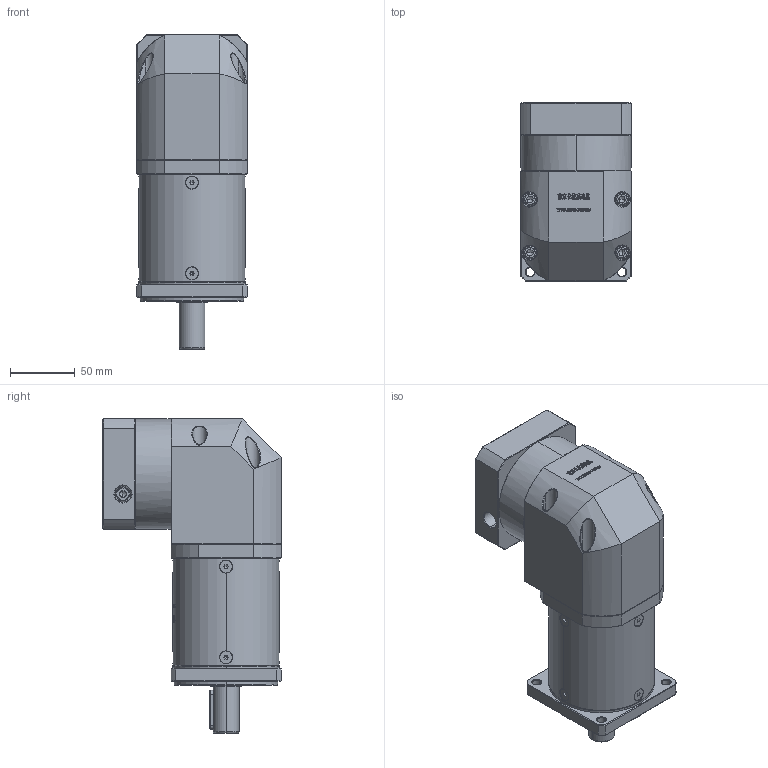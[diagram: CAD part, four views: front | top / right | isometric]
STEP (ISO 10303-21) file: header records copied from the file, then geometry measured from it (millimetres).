
FILE_DESCRIPTION (( 'STEP AP214' ), '1' );
FILE_NAME ('ZFR80-D20-L3-19-70-90-M6.step', '2022-05-08T12:06:08', ( '' ), ( 'Microsoft' ), 'SwSTEP 2.0', 'SolidWorks 2016', '' );
FILE_SCHEMA (( 'AUTOMOTIVE_DESIGN' ));
Length unit declared in the file: millimetre
Products named in the file (1): ZFR80-D20-L3-19-70-90-M6
Bounding box: 85 x 137.6 x 242.5 mm (x, y, z)
Volume: 1461619.9 mm3; surface area: 145397.1 mm2
Topology: 13 solids, 13 shells, 3060 faces, 8031 edges, 5119 vertices
Faces by surface type: plane 1619, bspline 624, cylinder 443, cone 360, torus 14
Entity records: 165056 total; most frequent: CARTESIAN_POINT 61719, ORIENTED_EDGE 15970, DIRECTION 12009, EDGE_CURVE 7985, VERTEX_POINT 5119, LINE 4971, VECTOR 4971, AXIS2_PLACEMENT_3D 3519
